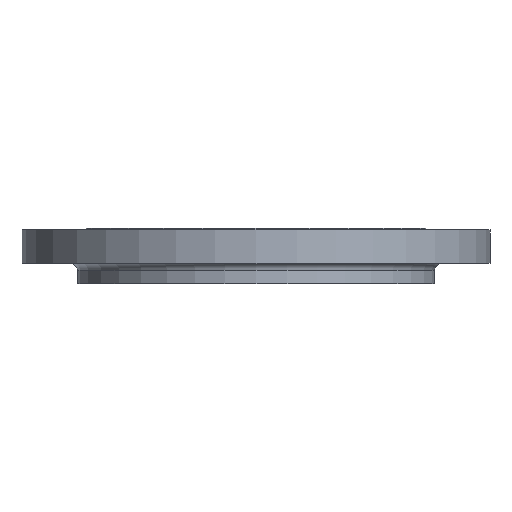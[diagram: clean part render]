
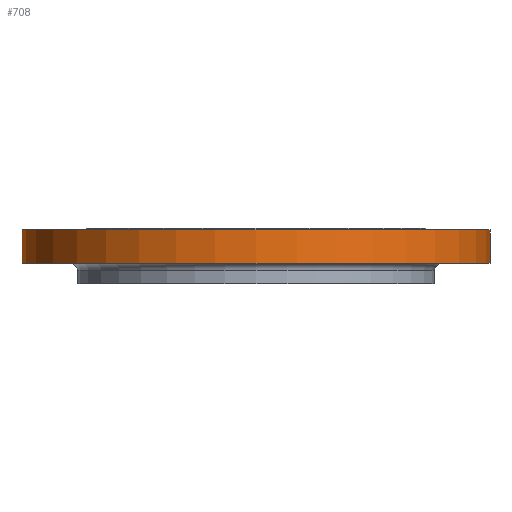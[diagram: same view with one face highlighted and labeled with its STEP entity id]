
A CAD part, front view. The second image highlights one B-rep face of the part: STEP entity #708.
In plain terms, the highlighted cylindrical face has radius 377.5 mm (diameter 755 mm), a partial arc.
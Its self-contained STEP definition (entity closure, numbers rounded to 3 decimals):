
#4 = CARTESIAN_POINT ( 'NONE',  ( 0., 0., -57. ) ) ;
#7 = EDGE_CURVE ( 'NONE', #1411, #357, #1870, .T. ) ;
#31 = CIRCLE ( 'NONE', #1180, 377.5 ) ;
#67 = CARTESIAN_POINT ( 'NONE',  ( 0., 0., -150. ) ) ;
#96 = EDGE_CURVE ( 'NONE', #1326, #357, #451, .T. ) ;
#134 = ORIENTED_EDGE ( 'NONE', *, *, #1453, .T. ) ;
#252 = VECTOR ( 'NONE', #1700, 1000. ) ;
#274 = DIRECTION ( 'NONE',  ( -1., 0., 0. ) ) ;
#324 = CARTESIAN_POINT ( 'NONE',  ( 377.5, 0., -150. ) ) ;
#348 = VERTEX_POINT ( 'NONE', #432 ) ;
#357 = VERTEX_POINT ( 'NONE', #1054 ) ;
#432 = CARTESIAN_POINT ( 'NONE',  ( 377.5, 0., -57. ) ) ;
#451 = LINE ( 'NONE', #1074, #252 ) ;
#635 = DIRECTION ( 'NONE',  ( 0., 0., 1. ) ) ;
#654 = ORIENTED_EDGE ( 'NONE', *, *, #7, .T. ) ;
#665 = ORIENTED_EDGE ( 'NONE', *, *, #1871, .T. ) ;
#694 = DIRECTION ( 'NONE',  ( 0., 0., 1. ) ) ;
#708 = ADVANCED_FACE ( 'NONE', ( #849 ), #1470, .T. ) ;
#849 = FACE_OUTER_BOUND ( 'NONE', #1495, .T. ) ;
#961 = DIRECTION ( 'NONE',  ( 0., 0., 1. ) ) ;
#1045 = CARTESIAN_POINT ( 'NONE',  ( 0., 0., -3. ) ) ;
#1054 = CARTESIAN_POINT ( 'NONE',  ( -377.5, 0., -3. ) ) ;
#1074 = CARTESIAN_POINT ( 'NONE',  ( -377.5, 0., -150. ) ) ;
#1180 = AXIS2_PLACEMENT_3D ( 'NONE', #4, #635, #1257 ) ;
#1257 = DIRECTION ( 'NONE',  ( 1., 0., 0. ) ) ;
#1274 = VECTOR ( 'NONE', #961, 1000. ) ;
#1318 = DIRECTION ( 'NONE',  ( 1., 0., 0. ) ) ;
#1326 = VERTEX_POINT ( 'NONE', #1377 ) ;
#1377 = CARTESIAN_POINT ( 'NONE',  ( -377.5, 0., -57. ) ) ;
#1392 = AXIS2_PLACEMENT_3D ( 'NONE', #67, #694, #1318 ) ;
#1411 = VERTEX_POINT ( 'NONE', #2000 ) ;
#1453 = EDGE_CURVE ( 'NONE', #348, #1411, #1728, .T. ) ;
#1470 = CYLINDRICAL_SURFACE ( 'NONE', #1392, 377.5 ) ;
#1495 = EDGE_LOOP ( 'NONE', ( #1953, #665, #134, #654 ) ) ;
#1668 = DIRECTION ( 'NONE',  ( 0., 0., -1. ) ) ;
#1700 = DIRECTION ( 'NONE',  ( 0., 0., 1. ) ) ;
#1728 = LINE ( 'NONE', #324, #1274 ) ;
#1841 = AXIS2_PLACEMENT_3D ( 'NONE', #1045, #1668, #274 ) ;
#1870 = CIRCLE ( 'NONE', #1841, 377.5 ) ;
#1871 = EDGE_CURVE ( 'NONE', #1326, #348, #31, .T. ) ;
#1953 = ORIENTED_EDGE ( 'NONE', *, *, #96, .F. ) ;
#2000 = CARTESIAN_POINT ( 'NONE',  ( 377.5, 0., -3. ) ) ;
